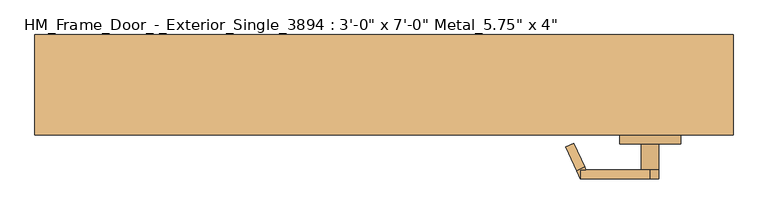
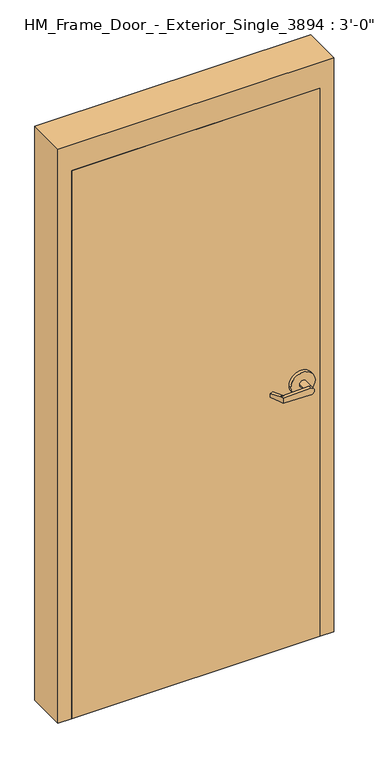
"""IFC4 building model written with IfcOpenShell, lengths in millimetres: door geometry."""

from ifc_helpers import new_model, si_unit, frame, origin, origin_with_axes, place, context, project, spatial, polyline, circle_curve, outline, extrude, faceted_brep, source, transform, mapped, element, save
from ifc_brep_helpers import plane_surface, cylinder_surface, advanced_brep


def door_ae087dad(model_context):
    return source(origin(), model_context, "Body", "SolidModel", [
        advanced_brep(
        [(291.892857, -35.9273608, 1006.475), (293.8407923, -31.75, 1006.475), (293.8407923, -31.75, 1025.525), (291.892857, -35.9273608, 1025.525), (275.7911012, -70.4576875, 1022.35), (275.7911012, -70.4576875, 1009.65), (285.75, -19.05, 1025.525), (285.75, -19.05, 1006.475), (280.3827481, -30.5601089, 1006.475), (264.2809923, -65.0904356, 1009.65), (264.2809923, -65.0904356, 1022.35), (280.3827481, -30.5601089, 1025.525), (285.75, -31.75, 1006.475), (285.75, -31.75, 1025.525), (386.9525418, -19.05, 1028.6937791), (386.9525418, -19.05, 1003.3062209), (386.9525418, -31.75, 1003.3062209), (374.65, -31.75, 1016.0), (386.9525418, -31.75, 1028.6937791), (400.05, -31.75, 1016.0), (374.65, -69.85, 1016.0), (400.05, -69.85, 1016.0), (431.8, -69.85, 1016.0), (342.9, -69.85, 1016.0), (431.8, -82.55, 1016.0), (342.9, -82.55, 1016.0)],
        [
            (0, 1),
            (1, 2),
            (2, 3),
            (3, 4),
            (4, 5),
            (5, 0),
            (6, 7),
            (7, 8),
            (8, 9),
            (9, 10),
            (10, 11),
            (11, 6),
            (7, 12),
            (12, 1),
            (0, 8),
            (5, 9),
            (4, 10),
            (3, 11),
            (2, 13),
            (13, 6),
            (6, 14),
            (14, 15, circle_curve(frame((387.35, -19.05, 1016.0), z_axis=(0.0, 1.0, 0.0), x_axis=(-1.0, 0.0, 0.0)), 12.7)),
            (15, 7),
            (12, 16),
            (16, 17, circle_curve(frame((387.35, -31.75, 1016.0), z_axis=(0.0, 1.0, 0.0), x_axis=(-1.0, 0.0, 0.0)), 12.7)),
            (17, 18, circle_curve(frame((387.35, -31.75, 1016.0), z_axis=(0.0, 1.0, 0.0), x_axis=(-1.0, 0.0, 0.0)), 12.7)),
            (18, 13),
            (15, 16),
            (14, 18),
            (18, 19, circle_curve(frame((387.35, -31.75, 1016.0), z_axis=(0.0, 1.0, 0.0), x_axis=(-1.0, 0.0, 0.0)), 12.7)),
            (19, 16, circle_curve(frame((387.35, -31.75, 1016.0), z_axis=(0.0, 1.0, 0.0), x_axis=(-1.0, 0.0, 0.0)), 12.7)),
            (17, 20),
            (20, 21, circle_curve(frame((387.35, -69.85, 1016.0), z_axis=(0.0, 1.0, 0.0), x_axis=(-1.0, 0.0, 0.0)), 12.7)),
            (21, 19),
            (21, 20, circle_curve(frame((387.35, -69.85, 1016.0), z_axis=(0.0, 1.0, 0.0), x_axis=(-1.0, 0.0, 0.0)), 12.7)),
            (22, 23, circle_curve(frame((387.35, -69.85, 1016.0), z_axis=(0.0, 1.0, 0.0), x_axis=(-1.0, 0.0, 0.0)), 44.45)),
            (23, 22, circle_curve(frame((387.35, -69.85, 1016.0), z_axis=(0.0, 1.0, 0.0), x_axis=(-1.0, 0.0, 0.0)), 44.45)),
            (24, 25, circle_curve(frame((387.35, -82.55, 1016.0), z_axis=(0.0, -1.0, 0.0), x_axis=(-1.0, 0.0, 0.0)), 44.45)),
            (25, 24, circle_curve(frame((387.35, -82.55, 1016.0), z_axis=(0.0, -1.0, 0.0), x_axis=(-1.0, 0.0, 0.0)), 44.45)),
            (23, 25),
            (24, 22),
        ],
        [
            plane_surface(frame((297.2601089, -24.4172519, 1006.475), z_axis=(0.9063077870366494, -0.4226182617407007, 0.0), x_axis=(0.0, 0.0, -1.0))),
            plane_surface(frame((285.75, -19.05, 1006.475), z_axis=(-0.9063077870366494, 0.4226182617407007, 0.0), x_axis=(0.0, 0.0, 1.0))),
            plane_surface(frame((297.2601089, -24.4172519, 1006.475), z_axis=(0.0, 0.0, -1.0000000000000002), x_axis=(-0.9063077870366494, 0.42261826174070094, 0.0))),
            plane_surface(frame((291.892857, -35.9273608, 1006.475), z_axis=(-0.035096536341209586, -0.07526476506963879, -0.9965457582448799), x_axis=(-0.9063077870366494, 0.42261826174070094, 0.0))),
            plane_surface(frame((275.7911012, -70.4576875, 1009.65), z_axis=(-0.42261826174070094, -0.9063077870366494, 0.0), x_axis=(-0.9063077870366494, 0.42261826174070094, 0.0))),
            plane_surface(frame((275.7911012, -70.4576875, 1022.35), z_axis=(-0.03509653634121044, -0.07526476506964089, 0.9965457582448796), x_axis=(-0.9063077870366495, 0.42261826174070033, 0.0))),
            plane_surface(frame((291.892857, -35.9273608, 1025.525), z_axis=(0.0, 0.0, 1.0000000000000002), x_axis=(-0.9063077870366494, 0.42261826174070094, 0.0))),
            plane_surface(frame((285.75, -19.05, 1006.475), z_axis=(0.0, 1.0, 0.0), x_axis=(0.9995101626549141, 0.0, -0.03129592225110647))),
            plane_surface(frame((285.75, -31.75, 1006.475), z_axis=(0.0, -1.0, 0.0), x_axis=(-0.9995101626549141, 0.0, 0.03129592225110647))),
            plane_surface(frame((285.75, -19.05, 1006.475), z_axis=(-0.03129592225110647, 0.0, -0.9995101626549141), x_axis=(0.0, -1.0, 0.0))),
            cylinder_surface(frame((387.35, -31.75, 1016.0), z_axis=(0.0, 1.0, 0.0), x_axis=(-1.0, 0.0, 0.0)), 12.7),
            plane_surface(frame((386.9525418, -19.05, 1028.6937791), z_axis=(-0.03129592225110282, 0.0, 0.9995101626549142), x_axis=(0.0, -1.0, 0.0))),
            cylinder_surface(frame((387.35, -69.85, 1016.0), z_axis=(0.0, 1.0, 0.0), x_axis=(-1.0, 0.0, 0.0)), 12.7),
            plane_surface(frame((342.9, -69.85, 1016.0), z_axis=(0.0, 1.0, 0.0), x_axis=(0.0, 0.0, -1.0))),
            plane_surface(frame((342.9, -82.55, 1016.0), z_axis=(0.0, -1.0, 0.0), x_axis=(0.0, 0.0, 1.0))),
            cylinder_surface(frame((387.35, -82.55, 1016.0), z_axis=(0.0, 1.0, 0.0), x_axis=(-1.0, 0.0, 0.0)), 44.45),
        ],
        [
            (0, [[1, 2, 3, 4, 5, 6]]),
            (1, [[7, 8, 9, 10, 11, 12]]),
            (2, [[13, 14, -1, 15, -8]]),
            (3, [[16, -9, -15, -6]]),
            (4, [[17, -10, -16, -5]]),
            (5, [[18, -11, -17, -4]]),
            (6, [[-18, -3, 19, 20, -12]]),
            (7, [[-7, 21, 22, 23]]),
            (8, [[-19, -2, -14, 24, 25, 26, 27]]),
            (9, [[28, -24, -13, -23]]),
            (10, [[29, 30, 31, -28, -22]]),
            (11, [[-20, -27, -29, -21]]),
            (12, [[-30, -26, 32, 33, 34]]),
            (12, [[35, -32, -25, -31, -34]]),
            (13, [[36, 37], [-35, -33]]),
            (14, [[38, 39]]),
            (15, [[40, -38, 41, -37]]),
            (15, [[-41, -39, -40, -36]]),
        ],
    ),
        advanced_brep(
        [(291.892857, -173.6226392, 1025.525), (293.8407923, -177.8, 1025.525), (293.8407923, -177.8, 1006.475), (291.892857, -173.6226392, 1006.475), (275.7911012, -139.0923125, 1009.65), (275.7911012, -139.0923125, 1022.35), (285.75, -190.5, 1006.475), (285.75, -190.5, 1025.525), (280.3827481, -178.9898911, 1025.525), (264.2809923, -144.4595644, 1022.35), (264.2809923, -144.4595644, 1009.65), (280.3827481, -178.9898911, 1006.475), (285.75, -177.8, 1025.525), (285.75, -177.8, 1006.475), (386.9525418, -190.5, 1003.3062209), (386.9525418, -190.5, 1028.6937791), (386.9525418, -177.8, 1028.6937791), (374.65, -177.8, 1016.0), (386.9525418, -177.8, 1003.3062209), (400.05, -177.8, 1016.0), (374.65, -139.7, 1016.0), (400.05, -139.7, 1016.0), (431.8, -139.7, 1016.0), (342.9, -139.7, 1016.0), (431.8, -127.0, 1016.0), (342.9, -127.0, 1016.0)],
        [
            (0, 1),
            (1, 2),
            (2, 3),
            (3, 4),
            (4, 5),
            (5, 0),
            (6, 7),
            (7, 8),
            (8, 9),
            (9, 10),
            (10, 11),
            (11, 6),
            (7, 12),
            (12, 1),
            (0, 8),
            (5, 9),
            (4, 10),
            (3, 11),
            (2, 13),
            (13, 6),
            (6, 14),
            (14, 15, circle_curve(frame((387.35, -190.5, 1016.0), z_axis=(0.0, -1.0, 0.0), x_axis=(-1.0, 0.0, 0.0)), 12.7)),
            (15, 7),
            (12, 16),
            (16, 17, circle_curve(frame((387.35, -177.8, 1016.0), z_axis=(0.0, -1.0, 0.0), x_axis=(-1.0, 0.0, 0.0)), 12.7)),
            (17, 18, circle_curve(frame((387.35, -177.8, 1016.0), z_axis=(0.0, -1.0, 0.0), x_axis=(-1.0, 0.0, 0.0)), 12.7)),
            (18, 13),
            (15, 16),
            (14, 18),
            (18, 19, circle_curve(frame((387.35, -177.8, 1016.0), z_axis=(0.0, -1.0, 0.0), x_axis=(-1.0, 0.0, 0.0)), 12.7)),
            (19, 16, circle_curve(frame((387.35, -177.8, 1016.0), z_axis=(0.0, -1.0, 0.0), x_axis=(-1.0, 0.0, 0.0)), 12.7)),
            (17, 20),
            (20, 21, circle_curve(frame((387.35, -139.7, 1016.0), z_axis=(0.0, -1.0, 0.0), x_axis=(-1.0, 0.0, 0.0)), 12.7)),
            (21, 19),
            (21, 20, circle_curve(frame((387.35, -139.7, 1016.0), z_axis=(0.0, -1.0, 0.0), x_axis=(-1.0, 0.0, 0.0)), 12.7)),
            (22, 23, circle_curve(frame((387.35, -139.7, 1016.0), z_axis=(0.0, -1.0, 0.0), x_axis=(-1.0, 0.0, 0.0)), 44.45)),
            (23, 22, circle_curve(frame((387.35, -139.7, 1016.0), z_axis=(0.0, -1.0, 0.0), x_axis=(-1.0, 0.0, 0.0)), 44.45)),
            (24, 25, circle_curve(frame((387.35, -127.0, 1016.0), z_axis=(0.0, 1.0, 0.0), x_axis=(-1.0, 0.0, 0.0)), 44.45)),
            (25, 24, circle_curve(frame((387.35, -127.0, 1016.0), z_axis=(0.0, 1.0, 0.0), x_axis=(-1.0, 0.0, 0.0)), 44.45)),
            (23, 25),
            (24, 22),
        ],
        [
            plane_surface(frame((297.2601089, -185.1327481, 1025.525), z_axis=(0.9063077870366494, 0.4226182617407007, 0.0), x_axis=(0.0, 0.0, 1.0))),
            plane_surface(frame((285.75, -190.5, 1025.525), z_axis=(-0.9063077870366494, -0.4226182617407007, 0.0), x_axis=(0.0, 0.0, -1.0))),
            plane_surface(frame((297.2601089, -185.1327481, 1025.525), z_axis=(0.0, 0.0, 1.0000000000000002), x_axis=(-0.9063077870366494, -0.42261826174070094, 0.0))),
            plane_surface(frame((291.892857, -173.6226392, 1025.525), z_axis=(-0.03509653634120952, 0.07526476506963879, 0.9965457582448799), x_axis=(-0.9063077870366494, -0.42261826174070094, 0.0))),
            plane_surface(frame((275.7911012, -139.0923125, 1022.35), z_axis=(-0.42261826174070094, 0.9063077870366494, 0.0), x_axis=(-0.9063077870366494, -0.42261826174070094, 0.0))),
            plane_surface(frame((275.7911012, -139.0923125, 1009.65), z_axis=(-0.03509653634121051, 0.07526476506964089, -0.9965457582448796), x_axis=(-0.9063077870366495, -0.42261826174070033, 0.0))),
            plane_surface(frame((291.892857, -173.6226392, 1006.475), z_axis=(0.0, 0.0, -1.0000000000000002), x_axis=(-0.9063077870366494, -0.42261826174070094, 0.0))),
            plane_surface(frame((285.75, -190.5, 1025.525), z_axis=(0.0, -1.0, 0.0), x_axis=(0.9995101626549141, 0.0, 0.0312959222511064))),
            plane_surface(frame((285.75, -177.8, 1025.525), z_axis=(0.0, 1.0, 0.0), x_axis=(-0.9995101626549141, 0.0, -0.0312959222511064))),
            plane_surface(frame((285.75, -190.5, 1025.525), z_axis=(-0.0312959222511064, 0.0, 0.9995101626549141), x_axis=(0.0, 1.0, 0.0))),
            cylinder_surface(frame((387.35, -177.8, 1016.0), z_axis=(0.0, -1.0, 0.0), x_axis=(-1.0, 0.0, 0.0)), 12.7),
            plane_surface(frame((386.9525418, -190.5, 1003.3062209), z_axis=(-0.03129592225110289, 0.0, -0.9995101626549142), x_axis=(0.0, 1.0, 0.0))),
            cylinder_surface(frame((387.35, -139.7, 1016.0), z_axis=(0.0, -1.0, 0.0), x_axis=(-1.0, 0.0, 0.0)), 12.7),
            plane_surface(frame((342.9, -139.7, 1016.0), z_axis=(0.0, -1.0, 0.0), x_axis=(0.0, 0.0, 1.0))),
            plane_surface(frame((342.9, -127.0, 1016.0), z_axis=(0.0, 1.0, 0.0), x_axis=(0.0, 0.0, -1.0))),
            cylinder_surface(frame((387.35, -127.0, 1016.0), z_axis=(0.0, -1.0, 0.0), x_axis=(-1.0, 0.0, 0.0)), 44.45),
        ],
        [
            (0, [[1, 2, 3, 4, 5, 6]]),
            (1, [[7, 8, 9, 10, 11, 12]]),
            (2, [[13, 14, -1, 15, -8]]),
            (3, [[16, -9, -15, -6]]),
            (4, [[17, -10, -16, -5]]),
            (5, [[18, -11, -17, -4]]),
            (6, [[-18, -3, 19, 20, -12]]),
            (7, [[-7, 21, 22, 23]]),
            (8, [[-19, -2, -14, 24, 25, 26, 27]]),
            (9, [[28, -24, -13, -23]]),
            (10, [[29, 30, 31, -28, -22]]),
            (11, [[-20, -27, -29, -21]]),
            (12, [[-30, -26, 32, 33, 34]]),
            (12, [[35, -32, -25, -31, -34]]),
            (13, [[36, 37], [-35, -33]]),
            (14, [[38, 39]]),
            (15, [[40, -38, 41, -37]]),
            (15, [[-41, -39, -40, -36]]),
        ],
    ),
        extrude(outline(polyline([(-457.2, -127.0), (-457.2, -82.55), (457.2, -82.55), (457.2, -127.0), (-457.2, -127.0)])), origin_with_axes(), (0.0, 0.0, 1.0), 2133.6),
        faceted_brep([(-457.2, -127.0, 0.0), (-508.0, -127.0, 0.0), (-508.0, 19.05, 0.0), (-457.2, 19.05, 0.0), (-457.2, -25.4, 0.0), (-441.325, -25.4, 0.0), (-441.325, -82.55, 0.0), (-457.2, -82.55, 0.0), (-457.2, -82.55, 2133.6), (-457.2, -127.0, 2133.6), (-441.325, -82.55, 2117.725), (441.325, -82.55, 2117.725), (441.325, -82.55, 0.0), (457.2, -82.55, 0.0), (457.2, -82.55, 2133.6), (-441.325, -25.4, 2117.725), (-457.2, -25.4, 2133.6), (457.2, -25.4, 2133.6), (457.2, -25.4, 0.0), (441.325, -25.4, 0.0), (441.325, -25.4, 2117.725), (-457.2, 19.05, 2133.6), (-508.0, 19.05, 2235.2), (508.0, 19.05, 2235.2), (508.0, 19.05, 0.0), (457.2, 19.05, 0.0), (457.2, 19.05, 2133.6), (-508.0, -127.0, 2235.2), (457.2, -127.0, 2133.6), (457.2, -127.0, 0.0), (508.0, -127.0, 0.0), (508.0, -127.0, 2235.2)], [[[0, 1, 2, 3, 4, 5, 6, 7]], [[7, 8, 9, 0]], [[6, 10, 11, 12, 13, 14, 8, 7]], [[5, 15, 10, 6]], [[4, 16, 17, 18, 19, 20, 15, 5]], [[3, 21, 16, 4]], [[2, 22, 23, 24, 25, 26, 21, 3]], [[1, 27, 22, 2]], [[0, 9, 28, 29, 30, 31, 27, 1]], [[30, 24, 23, 31]], [[23, 22, 27, 31]], [[21, 26, 17, 16]], [[15, 20, 11, 10]], [[14, 28, 9, 8]], [[29, 13, 12, 19, 18, 25, 24, 30]], [[17, 26, 25, 18]], [[12, 11, 20, 19]], [[29, 28, 14, 13]]]),
    ])


if __name__ == "__main__":
    model = new_model("IFC4")
    model_context = context("Model", 3, world=origin())
    ifc_project = project(units=[si_unit("LENGTHUNIT", "METRE", prefix="MILLI")], contexts=[model_context])
    site = spatial("IfcSite", under=ifc_project)
    building = spatial("IfcBuilding", under=site)
    placement = place(None, origin())
    door_shape = door_ae087dad(model_context)
    element("IfcDoor", 1, ObjectType="HM_Frame_Door_-_Exterior_Single_3894 : 3'-0\" x 7'-0\" Metal_5.75\" x 4\"", at=placement, inside=building, context=model_context, shape_type="MappedRepresentation", body=[
        mapped(door_shape, transform((0.0, 0.0, 0.0), x_axis=(1.0, 0.0, 0.0), y_axis=(0.0, 1.0, 0.0), z_axis=(0.0, 0.0, 1.0))),
    ])
    save(model, "model.ifc")
